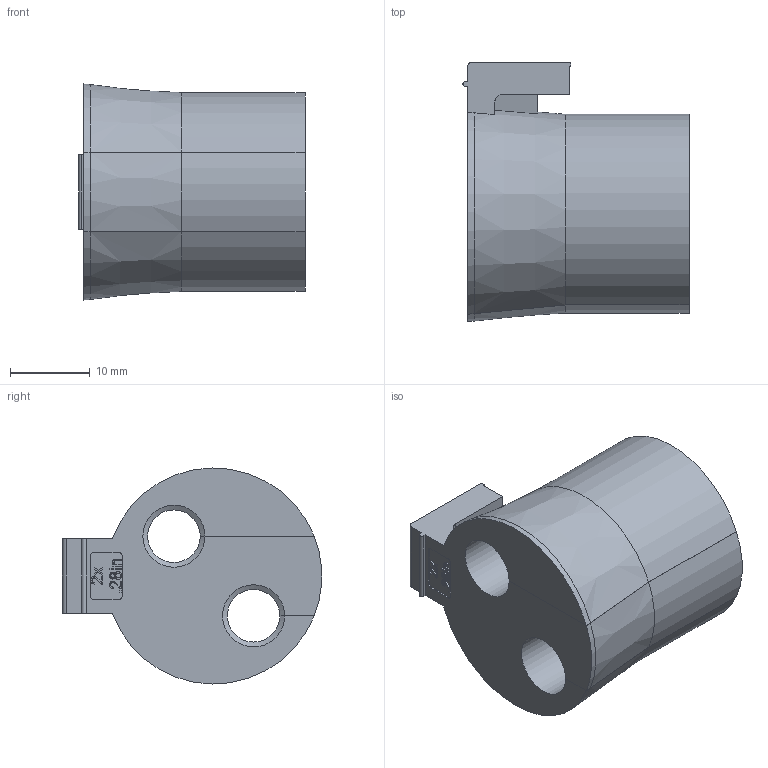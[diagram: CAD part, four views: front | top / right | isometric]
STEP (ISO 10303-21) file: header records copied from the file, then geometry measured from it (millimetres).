
FILE_DESCRIPTION(/* description */ (''),/* implementation_level */ '2;1');
FILE_NAME(/* name */ 'H:\SapWorkDir\Inventor\MP1\ConvertTempPath\87_12_121340_00_A_220525_KDT-X 2x7.stp',/* time_stamp */ '2022-05-25T13:49:31+02:00',/* author */ ('BAUER'),/* organization */ (''),/* preprocessor_version */ 'ST-DEVELOPER v16.13',/* originating_system */ 'Autodesk Inventor 2018',/* authorisation */ '');
FILE_SCHEMA (('AUTOMOTIVE_DESIGN { 1 0 10303 214 3 1 1 }'));
Length unit declared in the file: millimetre
Products named in the file (1): 121340
Bounding box: 28.4 x 32.53 x 27.14 mm (x, y, z)
Volume: 12130.8 mm3; surface area: 5750.1 mm2
Topology: 1 solids, 1 shells, 144 faces, 395 edges, 264 vertices
Faces by surface type: plane 77, bspline 41, cylinder 17, cone 9
Entity records: 4793 total; most frequent: CARTESIAN_POINT 1345, ORIENTED_EDGE 790, DIRECTION 558, EDGE_CURVE 395, LINE 264, VECTOR 264, VERTEX_POINT 264, EDGE_LOOP 155
